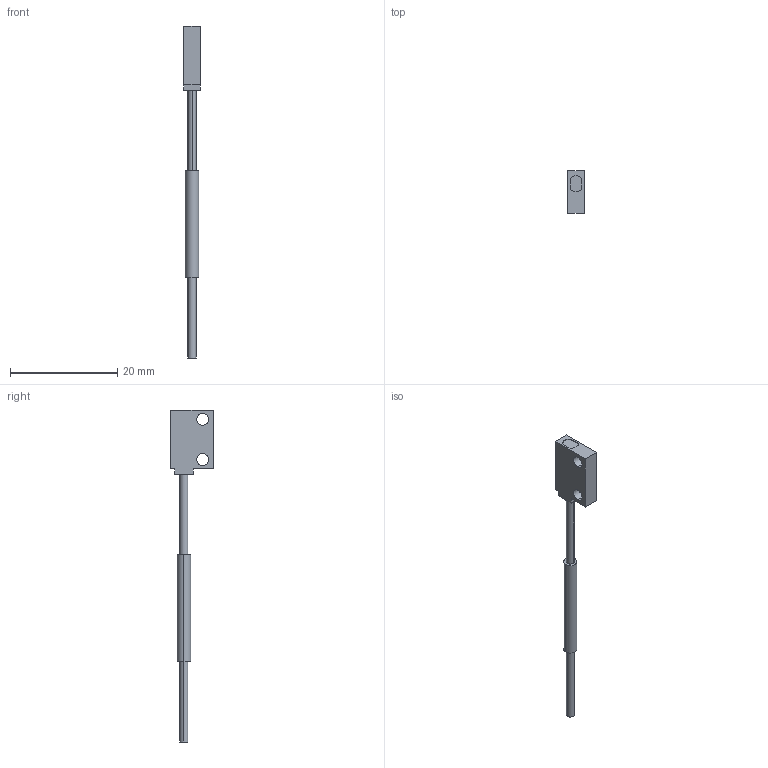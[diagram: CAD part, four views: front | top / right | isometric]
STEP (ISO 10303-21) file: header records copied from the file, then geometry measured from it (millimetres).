
FILE_DESCRIPTION (( 'STEP AP203' ), '1' );
FILE_NAME ('FT-WZ8H.STEP', '2005-09-08T02:34:43', ( '' ), ( '' ), 'SwSTEP 2.0', 'SolidWorks 2004073', '' );
FILE_SCHEMA (( 'CONFIG_CONTROL_DESIGN' ));
Length unit declared in the file: millimetre
Products named in the file (1): FT-WZ8H
Bounding box: 3 x 8 x 62 mm (x, y, z)
Volume: 402 mm3; surface area: 638.2 mm2
Topology: 2 solids, 2 shells, 30 faces, 69 edges, 46 vertices
Faces by surface type: plane 17, cylinder 13
Entity records: 942 total; most frequent: DIRECTION 157, CARTESIAN_POINT 146, ORIENTED_EDGE 138, EDGE_CURVE 69, AXIS2_PLACEMENT_3D 57, VERTEX_POINT 46, LINE 43, VECTOR 43
